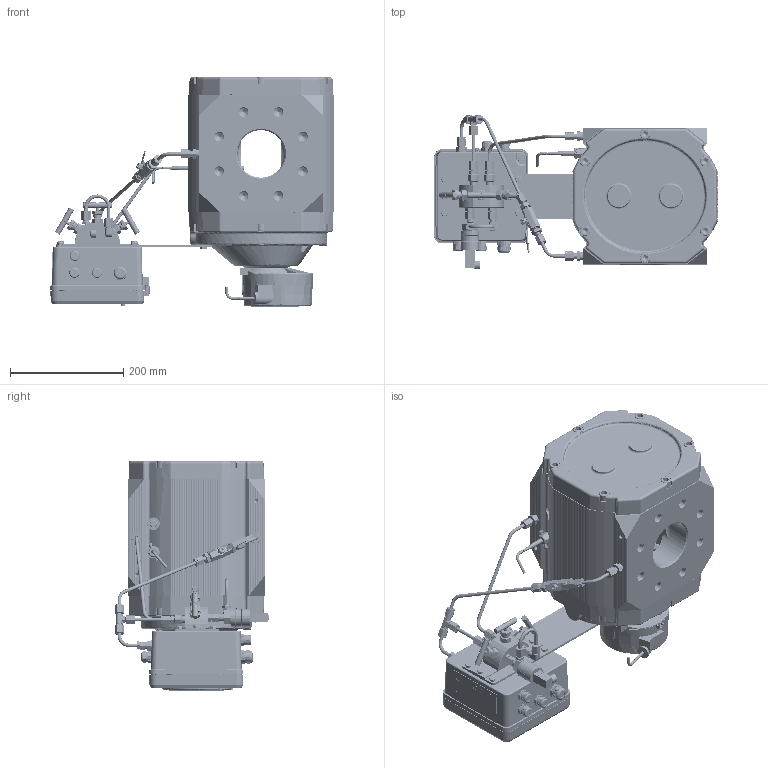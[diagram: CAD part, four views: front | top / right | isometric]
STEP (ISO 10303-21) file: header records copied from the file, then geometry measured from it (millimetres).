
FILE_DESCRIPTION(('STEP AP242'), '1');
FILE_NAME('ÑÃ-ÝÊÐ-Ð-250 c ÏÏÄ ïðàâûé', '', ('UNSPECIFIED'), ('UNSPECIFIED'), 'C3D Converter', 'C3D Toolkit', '');
FILE_SCHEMA(('AP242_MANAGED_MODEL_BASED_3D_ENGINEERING_MIM_LF { 1 0 10303 442 1 1 4 }'));
Length unit declared in the file: millimetre
Bounding box: 499.5 x 272.08 x 406.4 mm (x, y, z)
Volume: 10308948.7 mm3; surface area: 1612069.1 mm2
Topology: 177 solids, 178 shells, 9805 faces, 25383 edges, 16473 vertices
Faces by surface type: plane 3349, extrusion 2893, cylinder 1963, cone 886, bspline 370, torus 306, sphere 38
Full cylindrical faces by diameter (mm): 1.5 x8, 1.95 x3, 2 x41, 2.2 x14, 2.3 x8, 2.459 x11, 2.5 x20, 2.791 x2, 3 x24, 3.1 x1, 3.2 x13, 3.242 x7, 3.3 x4, 3.45 x3, 3.459 x2, 3.688 x1, 4 x44, 4.134 x1, 4.3 x12, 4.5 x1, 4.917 x15, 5 x34, 5.2 x12, 5.5 x8, 6 x60, 6.2 x12, 6.6 x4, 6.75 x2, 7 x16, 7.8 x10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
Entity records: 515724 total; most frequent: CARTESIAN_POINT 217588, ORIENTED_EDGE 47661, DIRECTION 35473, EDGE_CURVE 23831, VERTEX_POINT 16374, VECTOR 13507, EDGE_LOOP 12193, B_SPLINE_CURVE_WITH_KNOTS 11170
